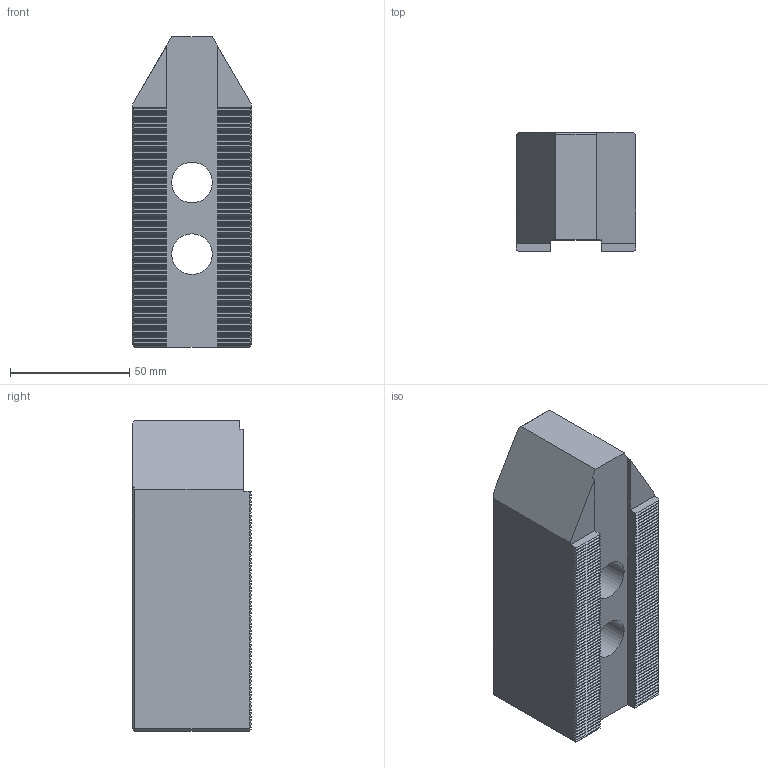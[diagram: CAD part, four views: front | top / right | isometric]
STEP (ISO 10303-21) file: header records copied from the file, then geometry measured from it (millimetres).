
FILE_DESCRIPTION(/* description */ (''),/* implementation_level */ '2;1');
FILE_NAME(/* name */ '',/* time_stamp */ '2025-10-20T16:49:25+03:00',/* author */ ('Arina Rekina'),/* organization */ (''),/* preprocessor_version */ 'ST-DEVELOPER v19.2',/* originating_system */ 'Autodesk Inventor 2024',/* authorisation */ '');
FILE_SCHEMA (('AUTOMOTIVE_DESIGN { 1 0 10303 214 3 1 1 }'));
Length unit declared in the file: millimetre
Products named in the file (1): SC-12-21(160мм) 
Bounding box: 50 x 50 x 130 mm (x, y, z)
Volume: 248663 mm3; surface area: 36522 mm2
Topology: 1 solids, 1 shells, 568 faces, 1414 edges, 850 vertices
Faces by surface type: plane 562, cylinder 4, cone 2
Full cylindrical faces by diameter (mm): 17 x2, 24.5 x2
Entity records: 16217 total; most frequent: CARTESIAN_POINT 2833, ORIENTED_EDGE 2828, DIRECTION 2564, EDGE_CURVE 1414, LINE 1402, VECTOR 1402, VERTEX_POINT 850, AXIS2_PLACEMENT_3D 581
